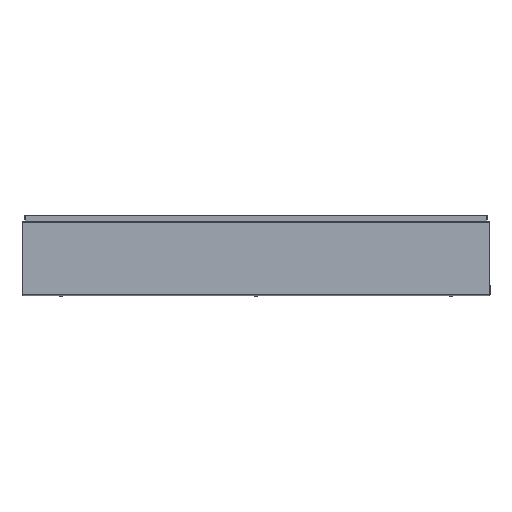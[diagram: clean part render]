
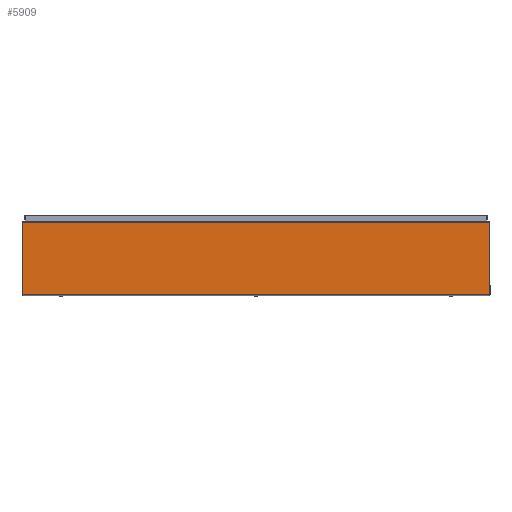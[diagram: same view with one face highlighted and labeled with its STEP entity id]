
A CAD part, front view. The second image highlights one B-rep face of the part: STEP entity #5909.
In plain terms, the highlighted planar face has unit normal (0, -1, 0).
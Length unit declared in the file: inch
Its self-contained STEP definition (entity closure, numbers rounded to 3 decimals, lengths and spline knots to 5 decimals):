
#45 = AXIS2_PLACEMENT_3D ( 'NONE', #2012, #2024, #2025 ) ;
#1378 = CARTESIAN_POINT ( 'NONE',  ( 34.16079, -11.8115, 10.731 ) ) ;
#1383 = DIRECTION ( 'NONE',  ( -1., 0., 0. ) ) ;
#1416 = CARTESIAN_POINT ( 'NONE',  ( -34.16079, -11.8115, 0.152 ) ) ;
#1417 = DIRECTION ( 'NONE',  ( 0., 0., 1. ) ) ;
#1420 = CARTESIAN_POINT ( 'NONE',  ( 34.0815, -11.8115, 0.152 ) ) ;
#1421 = DIRECTION ( 'NONE',  ( 1., 0., 0. ) ) ;
#1452 = LINE ( 'NONE', #1378, #1453 ) ;
#1453 = VECTOR ( 'NONE', #1383, 39.37008 ) ;
#1454 = VECTOR ( 'NONE', #1417, 39.37008 ) ;
#1459 = LINE ( 'NONE', #1416, #1454 ) ;
#1463 = LINE ( 'NONE', #1420, #1464 ) ;
#1464 = VECTOR ( 'NONE', #1421, 39.37008 ) ;
#1471 = LINE ( 'NONE', #1512, #1472 ) ;
#1472 = VECTOR ( 'NONE', #1513, 39.37008 ) ;
#1512 = CARTESIAN_POINT ( 'NONE',  ( 34.16079, -11.8115, 0.152 ) ) ;
#1513 = DIRECTION ( 'NONE',  ( 0., 0., 1. ) ) ;
#1941 = FACE_OUTER_BOUND ( 'NONE', #6366, .T. ) ;
#2012 = CARTESIAN_POINT ( 'NONE',  ( 34.0815, -11.8115, 0.072 ) ) ;
#2019 = PLANE ( 'NONE',  #45 ) ;
#2024 = DIRECTION ( 'NONE',  ( 0., -1., 0. ) ) ;
#2025 = DIRECTION ( 'NONE',  ( 0., 0., -1. ) ) ;
#3441 = VERTEX_POINT ( 'NONE', #7184 ) ;
#3449 = VERTEX_POINT ( 'NONE', #7192 ) ;
#4495 = VERTEX_POINT ( 'NONE', #8497 ) ;
#4496 = VERTEX_POINT ( 'NONE', #8498 ) ;
#5648 = EDGE_CURVE ( 'NONE', #3449, #3441, #1452, .T. ) ;
#5740 = EDGE_CURVE ( 'NONE', #4496, #3441, #1459, .T. ) ;
#5742 = EDGE_CURVE ( 'NONE', #4496, #4495, #1463, .T. ) ;
#5749 = EDGE_CURVE ( 'NONE', #4495, #3449, #1471, .T. ) ;
#5909 = ADVANCED_FACE ( 'NONE', ( #1941 ), #2019, .T. ) ;
#5959 = ORIENTED_EDGE ( 'NONE', *, *, #5749, .T. ) ;
#5960 = ORIENTED_EDGE ( 'NONE', *, *, #5648, .T. ) ;
#5961 = ORIENTED_EDGE ( 'NONE', *, *, #5740, .F. ) ;
#5962 = ORIENTED_EDGE ( 'NONE', *, *, #5742, .T. ) ;
#6366 = EDGE_LOOP ( 'NONE', ( #5959, #5960, #5961, #5962 ) ) ;
#7184 = CARTESIAN_POINT ( 'NONE',  ( -34.16079, -11.8115, 10.731 ) ) ;
#7192 = CARTESIAN_POINT ( 'NONE',  ( 34.16079, -11.8115, 10.731 ) ) ;
#8497 = CARTESIAN_POINT ( 'NONE',  ( 34.16079, -11.8115, 0.152 ) ) ;
#8498 = CARTESIAN_POINT ( 'NONE',  ( -34.16079, -11.8115, 0.152 ) ) ;
